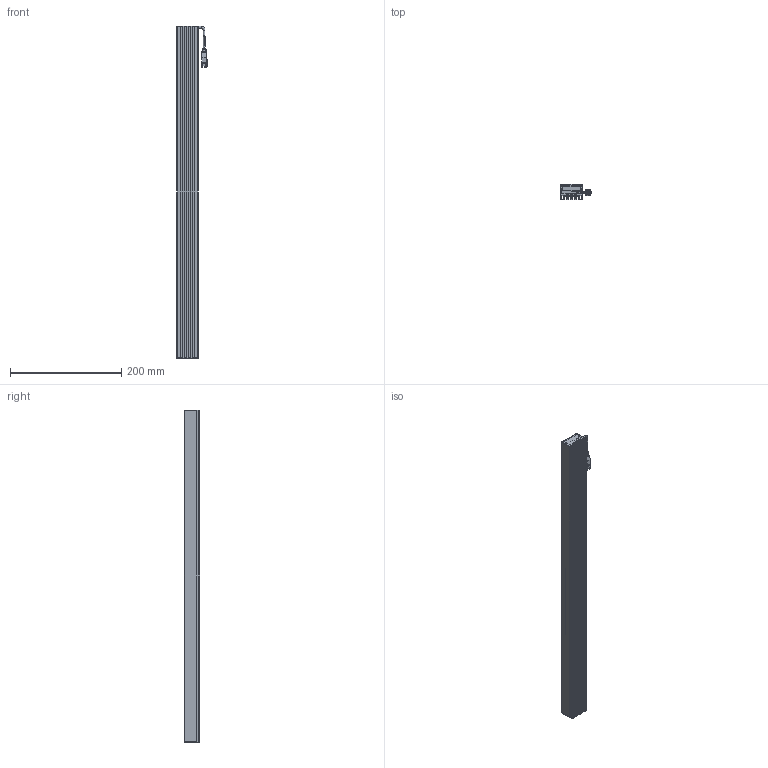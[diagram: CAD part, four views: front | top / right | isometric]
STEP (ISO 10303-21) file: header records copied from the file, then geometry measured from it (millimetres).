
FILE_DESCRIPTION (( 'STEP AP203' ), '1' );
FILE_NAME ('LBD-597L-潠眢3D芞.STEP', '2021-06-16T08:21:05', ( 'Windows 蚚誧' ), ( 'Organization' ), 'SwSTEP 2.0', 'SolidWorks 2018', '' );
FILE_SCHEMA (( 'CONFIG_CONTROL_DESIGN' ));
Length unit declared in the file: millimetre
Products named in the file (1): LBD-597L-潠眢3D芞
Bounding box: 54.16 x 27 x 597 mm (x, y, z)
Surface area: 221162 mm2 (no closed solid volume)
Topology: 0 solids, 7 shells, 881 faces, 2523 edges, 1641 vertices
Faces by surface type: plane 450, cylinder 369, cone 28, bspline 28, torus 6
Entity records: 29420 total; most frequent: CARTESIAN_POINT 5939, ORIENTED_EDGE 4967, DIRECTION 4934, EDGE_CURVE 2507, LINE 1658, VECTOR 1658, VERTEX_POINT 1641, AXIS2_PLACEMENT_3D 1638
